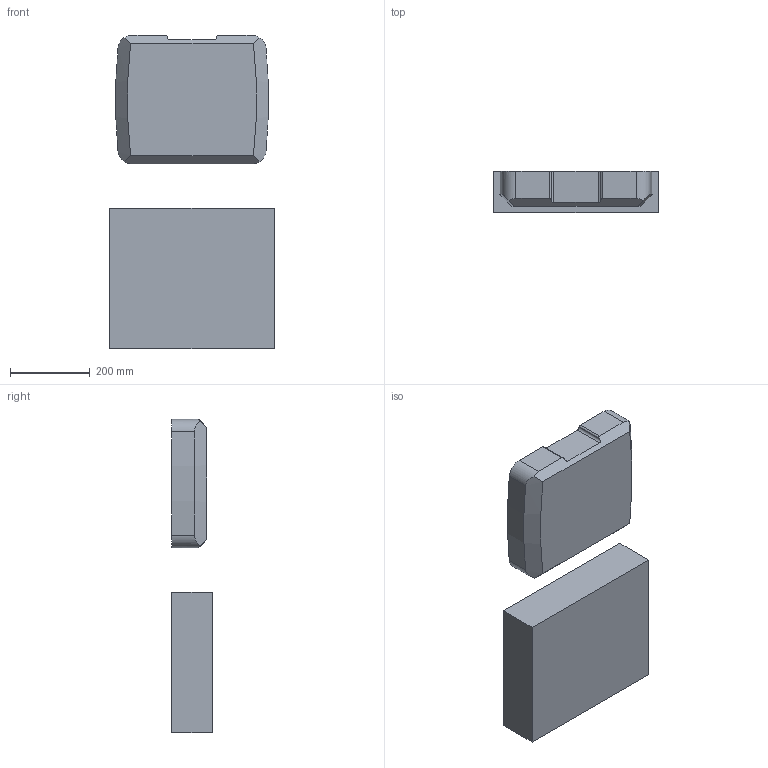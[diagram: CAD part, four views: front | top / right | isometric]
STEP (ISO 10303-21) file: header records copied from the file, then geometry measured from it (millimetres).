
FILE_DESCRIPTION (( 'STEP AP203' ), '1' );
FILE_NAME ('STA-300-454-V01.STEP', '2018-06-21T07:54:06', ( '' ), ( '' ), 'SwSTEP 2.0', 'SolidWorks 2016', '' );
FILE_SCHEMA (( 'CONFIG_CONTROL_DESIGN' ));
Length unit declared in the file: millimetre
Products named in the file (1): STA-300-454-V01
Bounding box: 415 x 103 x 788 mm (x, y, z)
Volume: 15088985 mm3; surface area: 889858.3 mm2
Topology: 2 solids, 2 shells, 49 faces, 132 edges, 88 vertices
Faces by surface type: plane 25, cylinder 20, cone 4
Entity records: 1777 total; most frequent: CARTESIAN_POINT 518, ORIENTED_EDGE 264, DIRECTION 228, EDGE_CURVE 132, VERTEX_POINT 88, AXIS2_PLACEMENT_3D 78, VECTOR 72, LINE 72
